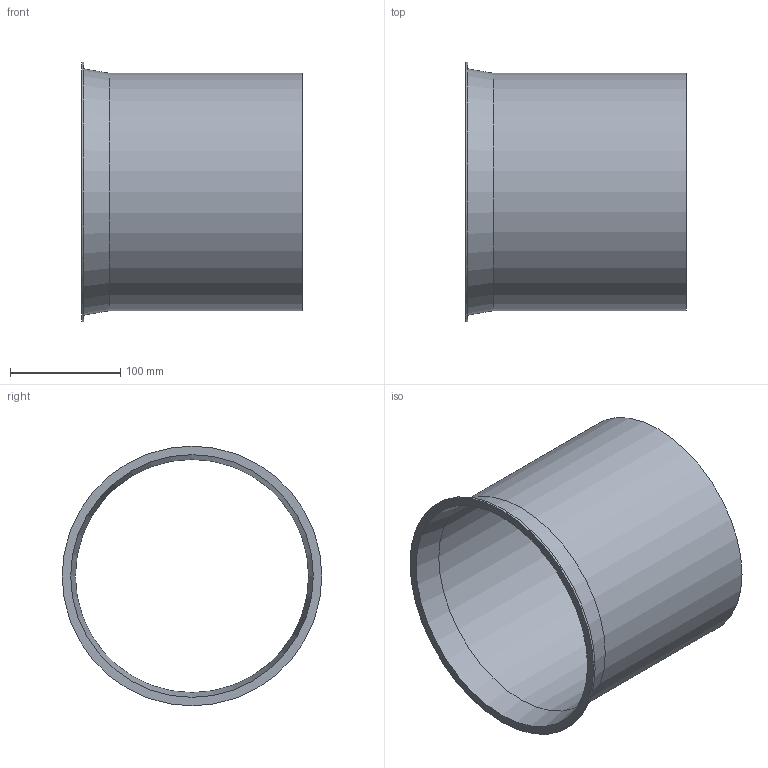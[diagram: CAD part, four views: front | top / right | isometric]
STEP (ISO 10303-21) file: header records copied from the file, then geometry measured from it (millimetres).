
FILE_DESCRIPTION((''),'2;1');
FILE_NAME('U:\Wolfgang\Marcel-3D\fertig\Kapitel 1\2211008.stp','2010-05-31T11:31:56',('TK2'),(''),'Autodesk Inventor 2010','Autodesk Inventor 2010','');
FILE_SCHEMA(('AUTOMOTIVE_DESIGN { 1 0 10303 214 1 1 1 1 }'));
Length unit declared in the file: millimetre
Products named in the file (1): 2211008
Bounding box: 200 x 235 x 235 mm (x, y, z)
Volume: 277241.8 mm3; surface area: 280045.8 mm2
Topology: 1 solids, 1 shells, 8 faces, 14 edges, 9 vertices
Faces by surface type: cylinder 3, plane 3, cone 2
Full cylindrical faces by diameter (mm): 211 x1, 215 x1, 235 x1
Entity records: 194 total; most frequent: DIRECTION 34, CARTESIAN_POINT 25, AXIS2_PLACEMENT_3D 17, ORIENTED_EDGE 16, EDGE_LOOP 16, VERTEX_POINT 8, CIRCLE 8, EDGE_CURVE 8
